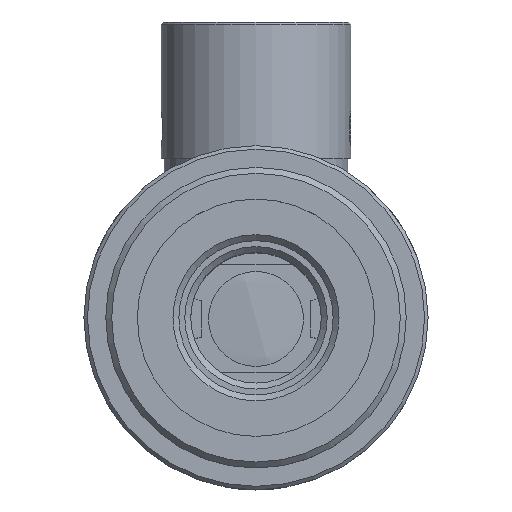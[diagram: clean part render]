
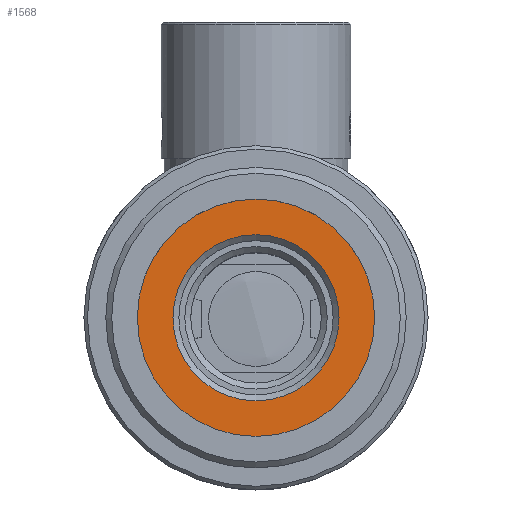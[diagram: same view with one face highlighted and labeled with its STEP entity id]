
A CAD part, top view. The second image highlights one B-rep face of the part: STEP entity #1568.
In plain terms, the highlighted planar face has unit normal (0, 0, 1).
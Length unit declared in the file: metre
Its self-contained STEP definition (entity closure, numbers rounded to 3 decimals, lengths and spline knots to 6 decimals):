
#1568=ADVANCED_FACE('NONE',(#3987,#3988),#3989,.F.);
#2540=EDGE_CURVE('NONE',#5430,#5430,#5431,.T.);
#2910=EDGE_CURVE('NONE',#5910,#5910,#5911,.T.);
#3987=FACE_OUTER_BOUND('',#7098,.T.);
#3988=FACE_BOUND('',#7099,.T.);
#3989=PLANE('',#7100);
#5430=VERTEX_POINT('',#9715);
#5431=CIRCLE('',#9716,0.01);
#5910=VERTEX_POINT('',#10547);
#5911=CIRCLE('',#10548,0.007);
#7098=EDGE_LOOP('',(#13054));
#7099=EDGE_LOOP('',(#13055));
#7100=AXIS2_PLACEMENT_3D('',#13056,#13057,#13058);
#9715=CARTESIAN_POINT('',(0.002802,0.000149,0.044099));
#9716=AXIS2_PLACEMENT_3D('',#14397,#14398,#14399);
#10547=CARTESIAN_POINT('',(0.005802,0.000149,0.044099));
#10548=AXIS2_PLACEMENT_3D('',#14729,#14730,#14731);
#13054=ORIENTED_EDGE('',*,*,#2540,.F.);
#13055=ORIENTED_EDGE('',*,*,#2910,.T.);
#13056=CARTESIAN_POINT('',(0.012802,0.010149,0.044099));
#13057=DIRECTION('',(0.,0.0,-1.0));
#13058=DIRECTION('',(0.0,-1.0,0.0));
#14397=CARTESIAN_POINT('',(0.012802,0.000149,0.044099));
#14398=DIRECTION('',(0.,0.0,-1.0));
#14399=DIRECTION('',(-1.0,0.0,0.));
#14729=CARTESIAN_POINT('',(0.012802,0.000149,0.044099));
#14730=DIRECTION('',(0.,0.0,-1.0));
#14731=DIRECTION('',(-1.0,0.0,0.));
